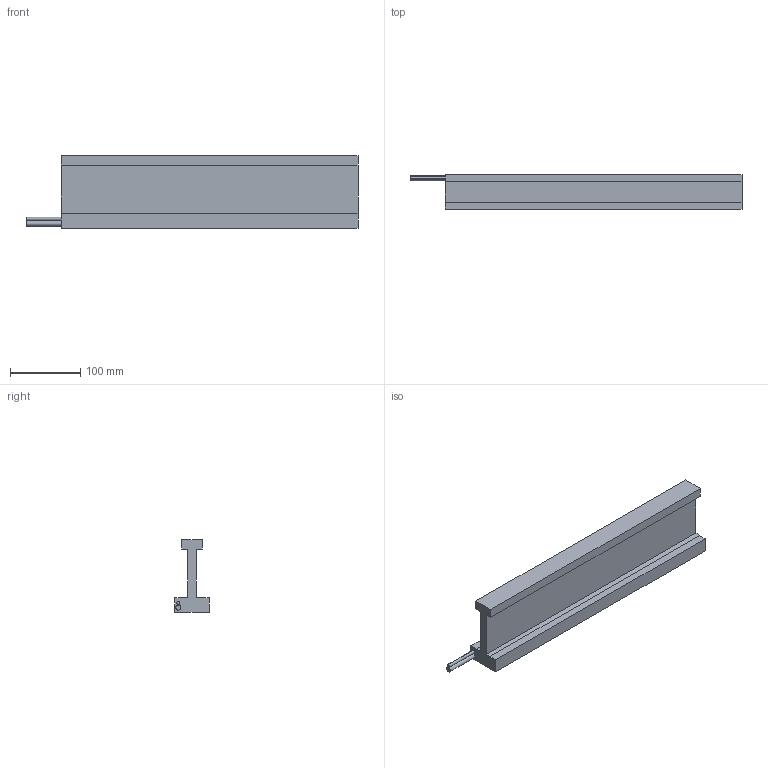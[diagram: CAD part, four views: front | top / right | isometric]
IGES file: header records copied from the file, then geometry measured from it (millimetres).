
Start section: SolidWorks IGES file using analytic representation for surfaces
Global section: file name: C:\Users\admin\Desktop\LM无铁芯U型电机 - 副本\FU700模型图\FU700-421.IGS; native system: SolidWorks 2016; preprocessor: SolidWorks 2016; author: admin; date: 201103.134622; units: millimetre
Bounding box: 471 x 49 x 103.5 mm (x, y, z)
Surface area: 152619.6 mm2 (no closed solid volume)
Topology: 0 solids, 0 shells, 98 faces, 1140 edges, 1102 vertices
Faces by surface type: revolution 80, bspline 18
